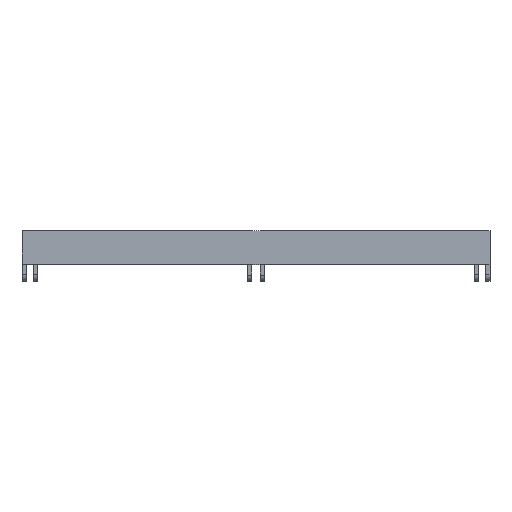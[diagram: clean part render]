
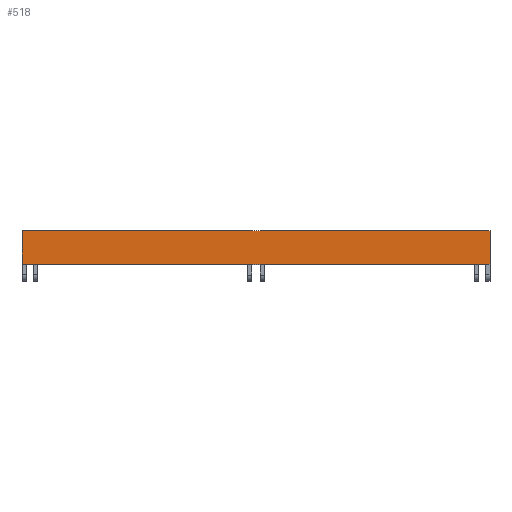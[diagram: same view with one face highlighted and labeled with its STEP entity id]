
A CAD part, top view. The second image highlights one B-rep face of the part: STEP entity #518.
In plain terms, the highlighted planar face has unit normal (0, 0, 1) as drawn and (0, -1, 0) by its records, which use the part's own axes.
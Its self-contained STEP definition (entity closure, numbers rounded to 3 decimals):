
#406 = EDGE_CURVE ( 'NONE', #441, #426, #1576, .T. ) ;
#409 = EDGE_CURVE ( 'NONE', #464, #441, #1572, .T. ) ;
#426 = VERTEX_POINT ( 'NONE', #1556 ) ;
#441 = VERTEX_POINT ( 'NONE', #1608 ) ;
#457 = EDGE_CURVE ( 'NONE', #458, #464, #1641, .T. ) ;
#458 = VERTEX_POINT ( 'NONE', #1637 ) ;
#464 = VERTEX_POINT ( 'NONE', #1620 ) ;
#518 = ADVANCED_FACE ( 'NONE', ( #1680 ), #1676, .T. ) ;
#519 = ORIENTED_EDGE ( 'NONE', *, *, #406, .T. ) ;
#534 = ORIENTED_EDGE ( 'NONE', *, *, #542, .T. ) ;
#542 = EDGE_CURVE ( 'NONE', #426, #458, #1733, .T. ) ;
#547 = EDGE_LOOP ( 'NONE', ( #519, #534, #571, #569 ) ) ;
#569 = ORIENTED_EDGE ( 'NONE', *, *, #409, .T. ) ;
#571 = ORIENTED_EDGE ( 'NONE', *, *, #457, .T. ) ;
#1556 = CARTESIAN_POINT ( 'NONE',  ( 0., 0., 422.733 ) ) ;
#1569 = DIRECTION ( 'NONE',  ( -1., 0., 0. ) ) ;
#1570 = VECTOR ( 'NONE', #1569, 1000. ) ;
#1571 = CARTESIAN_POINT ( 'NONE',  ( 0., 0., 502.733 ) ) ;
#1572 = LINE ( 'NONE', #1571, #1570 ) ;
#1573 = DIRECTION ( 'NONE',  ( 0., 0., -1. ) ) ;
#1574 = VECTOR ( 'NONE', #1573, 1000. ) ;
#1575 = CARTESIAN_POINT ( 'NONE',  ( 0., 0., 422.733 ) ) ;
#1576 = LINE ( 'NONE', #1575, #1574 ) ;
#1608 = CARTESIAN_POINT ( 'NONE',  ( 0., 0., 502.733 ) ) ;
#1620 = CARTESIAN_POINT ( 'NONE',  ( 1114., 0., 502.733 ) ) ;
#1637 = CARTESIAN_POINT ( 'NONE',  ( 1114., 0., 422.733 ) ) ;
#1638 = DIRECTION ( 'NONE',  ( 0., 0., 1. ) ) ;
#1639 = VECTOR ( 'NONE', #1638, 1000. ) ;
#1640 = CARTESIAN_POINT ( 'NONE',  ( 1114., 0., 422.733 ) ) ;
#1641 = LINE ( 'NONE', #1640, #1639 ) ;
#1672 = DIRECTION ( 'NONE',  ( 0., 0., -1. ) ) ;
#1673 = DIRECTION ( 'NONE',  ( 0., -1., 0. ) ) ;
#1674 = CARTESIAN_POINT ( 'NONE',  ( 0., 0., 422.733 ) ) ;
#1675 = AXIS2_PLACEMENT_3D ( 'NONE', #1674, #1673, #1672 ) ;
#1676 = PLANE ( 'NONE',  #1675 ) ;
#1680 = FACE_OUTER_BOUND ( 'NONE', #547, .T. ) ;
#1730 = DIRECTION ( 'NONE',  ( 1., 0., 0. ) ) ;
#1731 = VECTOR ( 'NONE', #1730, 1000. ) ;
#1732 = CARTESIAN_POINT ( 'NONE',  ( 0., 0., 422.733 ) ) ;
#1733 = LINE ( 'NONE', #1732, #1731 ) ;
